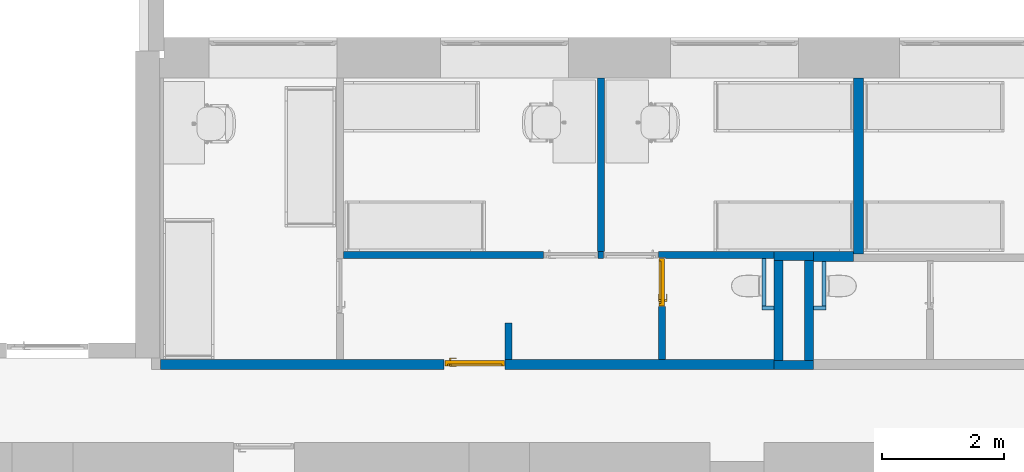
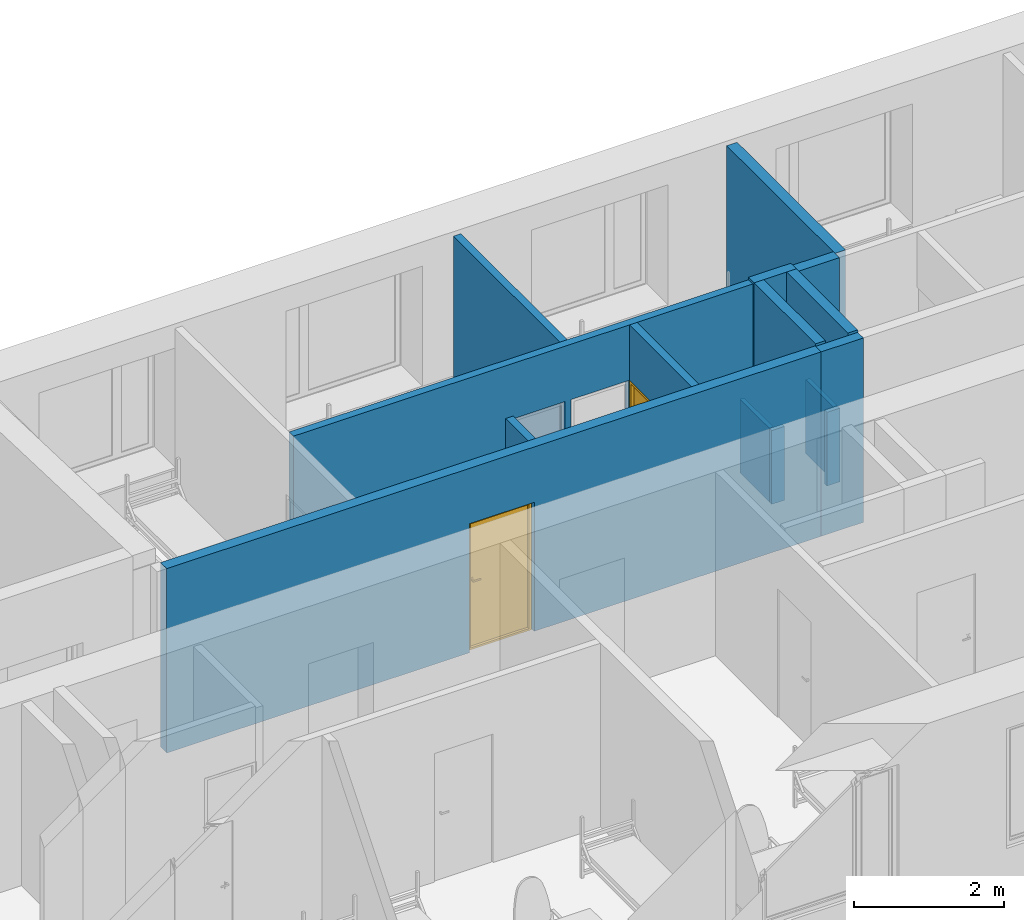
# One storey, part 9 of 46: 15 walls, 2 doors, 5 openings.
"""IFC2X3 building model written with IfcOpenShell, lengths in millimetres."""

from ifc_helpers import new_model, entity, si_unit, converted_unit, derived_unit, direction, frame, frame_2d, origin, place, context, subcontext, project, spatial, polyline, rectangle, extrude, clip, bounded_halfspace, faceted_brep, source, transform, mapped, material, material_list, layer, layer_set, layer_usage, type_object, type_shapes, element, fill, save


model = new_model("IFC2X3")

# Units and contexts
model_context = context("Model", 3, precision=0.01, world=origin(), true_north=direction((6.12303176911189e-17, 1.0)))
body_context = subcontext(model_context, "Body", "Model", "MODEL_VIEW")
ifc_project = project(units=[si_unit("LENGTHUNIT", "METRE", prefix="MILLI"), si_unit("AREAUNIT", "SQUARE_METRE"), si_unit("VOLUMEUNIT", "CUBIC_METRE"), converted_unit("PLANEANGLEUNIT", "DEGREE", entity("IfcRatioMeasure", 0.0174532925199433), si_unit("PLANEANGLEUNIT", "RADIAN"), dimensions=[0, 0, 0, 0, 0, 0, 0]), si_unit("MASSUNIT", "GRAM", prefix="KILO"), derived_unit("MASSDENSITYUNIT", [(si_unit("MASSUNIT", "GRAM", prefix="KILO"), 1), (si_unit("LENGTHUNIT", "METRE"), -3)]), si_unit("TIMEUNIT", "SECOND"), si_unit("FREQUENCYUNIT", "HERTZ"), si_unit("THERMODYNAMICTEMPERATUREUNIT", "DEGREE_CELSIUS"), derived_unit("THERMALTRANSMITTANCEUNIT", [(si_unit("MASSUNIT", "GRAM", prefix="KILO"), 1), (si_unit("THERMODYNAMICTEMPERATUREUNIT", "KELVIN"), -1), (si_unit("TIMEUNIT", "SECOND"), -3)]), derived_unit("VOLUMETRICFLOWRATEUNIT", [(si_unit("LENGTHUNIT", "METRE"), 3), (si_unit("TIMEUNIT", "SECOND"), -1)]), si_unit("ELECTRICCURRENTUNIT", "AMPERE"), si_unit("ELECTRICVOLTAGEUNIT", "VOLT"), si_unit("POWERUNIT", "WATT"), si_unit("FORCEUNIT", "NEWTON", prefix="KILO"), si_unit("ILLUMINANCEUNIT", "LUX"), si_unit("LUMINOUSFLUXUNIT", "LUMEN"), si_unit("LUMINOUSINTENSITYUNIT", "CANDELA"), derived_unit("USERDEFINED", [(si_unit("MASSUNIT", "GRAM", prefix="KILO"), -1), (si_unit("LENGTHUNIT", "METRE"), -2), (si_unit("TIMEUNIT", "SECOND"), 3), (si_unit("LUMINOUSFLUXUNIT", "LUMEN"), 1)]), derived_unit("LINEARVELOCITYUNIT", [(si_unit("LENGTHUNIT", "METRE"), 1), (si_unit("TIMEUNIT", "SECOND"), -1)]), si_unit("PRESSUREUNIT", "PASCAL"), derived_unit("USERDEFINED", [(si_unit("LENGTHUNIT", "METRE"), -2), (si_unit("MASSUNIT", "GRAM", prefix="KILO"), 1), (si_unit("TIMEUNIT", "SECOND"), -2)]), derived_unit("LINEARFORCEUNIT", [(si_unit("MASSUNIT", "GRAM", prefix="KILO"), 1), (si_unit("LENGTHUNIT", "METRE"), 1), (si_unit("TIMEUNIT", "SECOND"), -2), (si_unit("LENGTHUNIT", "METRE"), -1)]), derived_unit("PLANARFORCEUNIT", [(si_unit("MASSUNIT", "GRAM", prefix="KILO"), 1), (si_unit("LENGTHUNIT", "METRE"), 1), (si_unit("TIMEUNIT", "SECOND"), -2), (si_unit("LENGTHUNIT", "METRE"), -2)])], contexts=[model_context])

# Site, building, storey
site_placement = place(None, origin())
site = spatial("IfcSite", under=ifc_project, at=site_placement, Name="Default", CompositionType="ELEMENT")
building_placement = place(site_placement, origin())
building = spatial("IfcBuilding", under=site, at=building_placement, Name="SMA ARH", CompositionType="ELEMENT")
storey_placement = place(building_placement, frame((0.0, 0.0, 9910.0)))
storey = spatial("IfcBuildingStorey", under=building, at=storey_placement, Name="4 Korrus", CompositionType="ELEMENT", Elevation=9909.9999999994)

# Walls
ifc_material_1 = material(Name="EST. Müüritis. Väikeplokk. Kergkruusplokk")
ifc_layer_1 = layer(ifc_material_1, 150.0)
ifc_layer_set_1 = layer_set([ifc_layer_1], Name="Basic Wall:SS-02_ 150mm šahtide vahesein")
ifc_layer_usage_1 = layer_usage(ifc_layer_set_1, "AXIS2", "POSITIVE", -75.0)
wall_type_1 = type_object("IfcWallType", Name="Basic Wall:SS-02_ 150mm šahtide vahesein", PredefinedType="STANDARD", material=ifc_layer_set_1)
wall_1_placement = place(storey_placement, frame((22087.2884818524, 9582.0, 0.0)))
element("IfcWallStandardCase", 1, at=wall_1_placement, inside=storey, type_object=wall_type_1, material=ifc_layer_usage_1, Name="Basic Wall:SS-02_ 150mm šahtide vahesein", ObjectType="Basic Wall:SS-02_ 150mm šahtide vahesein", context=body_context, shape_type="SweptSolid", body=[
    extrude(rectangle(XDim=650.000000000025, YDim=150.000000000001, at=frame_2d((325.000000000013, 4.68958205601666e-13), x_axis=(-1.0, 0.0))), origin(), (0.0, 0.0, 1.0), 3041.0500000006),
])
ifc_layer_usage_2 = layer_usage(ifc_layer_set_1, "AXIS2", "POSITIVE", -75.0)
wall_2_placement = place(storey_placement, frame((22662.2884818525, 9507.0, 0.0), z_axis=(0.0, 0.0, 1.0), x_axis=(0.0, -1.0, 0.0)))
element("IfcWallStandardCase", 2, at=wall_2_placement, inside=storey, type_object=wall_type_1, material=ifc_layer_usage_2, Name="Basic Wall:SS-02_ 150mm šahtide vahesein", ObjectType="Basic Wall:SS-02_ 150mm šahtide vahesein", context=body_context, shape_type="SweptSolid", body=[
    extrude(rectangle(XDim=1636.99999061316, YDim=150.000000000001, at=frame_2d((818.499995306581, 3.69482222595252e-13), x_axis=(-1.0, 0.0))), origin(), (0.0, 0.0, 1.0), 3041.0500000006),
])
ifc_layer_usage_3 = layer_usage(ifc_layer_set_1, "AXIS2", "POSITIVE", -75.0)
wall_3_placement = place(storey_placement, frame((22737.2884818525, 7795.0, 0.0), z_axis=(0.0, 0.0, 1.0), x_axis=(-1.0, 0.0, 0.0)))
element("IfcWallStandardCase", 3, at=wall_3_placement, inside=storey, type_object=wall_type_1, material=ifc_layer_usage_3, Name="Basic Wall:SS-02_ 150mm šahtide vahesein", ObjectType="Basic Wall:SS-02_ 150mm šahtide vahesein", context=body_context, shape_type="Clipping", body=[
    clip(extrude(rectangle(XDim=650.000000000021, YDim=150.000000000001, at=frame_2d((325.000000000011, 4.68958205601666e-13), x_axis=(-1.0, 0.0))), origin(), (0.0, 0.0, 1.0), 3001.0500000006), bounded_halfspace(frame((0.0, -75.0, 3001.0500000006), z_axis=(0.0, 0.0, -1.0), x_axis=(0.0, -1.0, 0.0)), True, frame((0.0, -75.0, 3001.0500000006)), polyline([(0.0, 0.0), (650.0, 0.0), (650.0, 150.0), (0.0, 150.0), (0.0, 0.0)]))),
])
ifc_layer_usage_4 = layer_usage(ifc_layer_set_1, "AXIS2", "POSITIVE", -75.0)
wall_4_placement = place(storey_placement, frame((22162.2884818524, 7870.0, 0.0), z_axis=(0.0, 0.0, 1.0), x_axis=(0.0, 1.0, 0.0)))
element("IfcWallStandardCase", 4, at=wall_4_placement, inside=storey, type_object=wall_type_1, material=ifc_layer_usage_4, Name="Basic Wall:SS-02_ 150mm šahtide vahesein", ObjectType="Basic Wall:SS-02_ 150mm šahtide vahesein", context=body_context, shape_type="SweptSolid", body=[
    extrude(rectangle(XDim=1636.99999061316, YDim=150.000000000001, at=frame_2d((818.499995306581, 0.0), x_axis=(-1.0, 0.0))), origin(), (0.0, 0.0, 1.0), 3041.0500000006),
])

# Wall, opening, door
ifc_material_2 = material(Name="EST. Ehitusplaat. Kipsplaat")
ifc_layer_2 = layer(ifc_material_2, 12.5)
ifc_layer_3 = layer(ifc_material_2, 12.5)
ifc_material_3 = material(Name="EST. Soojustus. Mineraalvill. Default")
ifc_layer_4 = layer(ifc_material_3, 50.0)
ifc_layer_5 = layer(ifc_material_2, 12.5)
ifc_layer_6 = layer(ifc_material_3, 50.0)
ifc_layer_7 = layer(ifc_material_2, 12.5)
ifc_layer_8 = layer(ifc_material_2, 12.5)
ifc_layer_set_2 = layer_set([ifc_layer_2, ifc_layer_3, ifc_layer_4, ifc_layer_5, ifc_layer_6, ifc_layer_7, ifc_layer_8], Name="Basic Wall:SS-04_Kips, 50+50 mm metallkarkass 2")
ifc_layer_usage_5 = layer_usage(ifc_layer_set_2, "AXIS2", "NEGATIVE", 81.25)
wall_type_2 = type_object("IfcWallType", Name="Basic Wall:SS-04_Kips, 50+50 mm metallkarkass 2", PredefinedType="STANDARD", material=ifc_layer_set_2)
wall_5_placement = place(storey_placement, frame((12015.0, 7801.25000938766, 0.0)))
wall_5 = element("IfcWallStandardCase", 5, at=wall_5_placement, inside=storey, type_object=wall_type_2, material=ifc_layer_usage_5, Name="Basic Wall:SS-04_Kips, 50+50 mm metallkarkass 2", ObjectType="Basic Wall:SS-04_Kips, 50+50 mm metallkarkass 2", context=body_context, shape_type="Clipping", body=[
    clip(extrude(rectangle(XDim=10072.2884818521, YDim=162.5, at=frame_2d((5036.14424092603, -2.1316282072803e-14), x_axis=(-1.0, 0.0))), origin(), (0.0, 0.0, 1.0), 3001.0500000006), bounded_halfspace(frame((0.0, -81.2499999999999, 3001.0500000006), z_axis=(0.0, 0.0, -1.0), x_axis=(0.0, 1.0, 0.0)), True, frame((0.0, -81.2499999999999, 3001.0500000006)), polyline([(0.0, 0.0), (10072.2884818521, 0.0), (10072.2884818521, 150.0), (10072.2884818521, 162.5), (8289.0, 162.5), (8173.0, 162.5), (5773.0, 162.5), (5657.0, 162.5), (3000.50000000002, 162.5), (2884.50000000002, 162.5), (0.0, 162.5), (0.0, 0.0)]))),
])
opening_1_placement = place(wall_5_placement, frame((4657.0, -81.2500000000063, 0.0)))
opening_1 = element("IfcOpeningElement", 6, at=opening_1_placement, cuts=wall_5, Name="SMA_D01, 1-poolne:SU-P-04 - 1000x2100 EI-30:1", ObjectType="Opening", context=body_context, shape_type="SweptSolid", body=[
    extrude(rectangle(XDim=2099.99999999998, YDim=1000.0, at=frame_2d((1049.99999999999, 500.0), x_axis=(1.0, 0.0))), frame((0.0, 0.0, 0.0), z_axis=(0.0, 1.0, 0.0), x_axis=(0.0, 0.0, 1.0)), (0.0, 0.0, 1.0), 162.5),
])
ifc_material_4 = material(Name="EST. Metall. Alumiinium. Värvitud. RAL7023 (Concrete grey)")
ifc_material_5 = material(Name="<Unnamed>")
ifc_material_6 = material(Name="EST. Klaas. 3x. Default")
ifc_material_list_1 = material_list([ifc_material_5, ifc_material_6, ifc_material_5, ifc_material_4, ifc_material_5, ifc_material_4, ifc_material_4])
door_style_1 = type_object("IfcDoorStyle", Name="SMA_D01, 1-poolne:SU-P-04 - 1000x2100 EI-30", ConstructionType="NOTDEFINED", OperationType="SINGLE_SWING_RIGHT", ParameterTakesPrecedence=False, Sizeable=False, material=ifc_material_list_1)
shared_shape_1 = source(origin(), body_context, "Body", "Brep", [
    faceted_brep([(110.0, 52.5000000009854, 1112.5), (110.0, 90.5000000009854, 1112.5), (85.0, 90.5000000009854, 1112.5), (85.0, 47.5000000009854, 1112.5), (205.0, 47.5000000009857, 1112.5), (205.0, 52.5000000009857, 1112.5), (110.0, 52.5000000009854, 1087.5), (205.0, 52.5000000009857, 1087.5), (205.0, 47.5000000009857, 1087.5), (85.0, 47.5000000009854, 1087.5), (85.0, 90.5000000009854, 1087.5), (110.0, 90.5000000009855, 1087.5)], [[[0, 1, 2, 3, 4, 5]], [[6, 7, 8, 9, 10, 11]], [[1, 0, 6, 11]], [[2, 1, 11, 10]], [[3, 2, 10, 9]], [[4, 3, 9, 8]], [[5, 4, 8, 7]], [[0, 5, 7, 6]]]),
    faceted_brep([(122.499999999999, 90.5000000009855, 1137.5), (122.499999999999, 92.5000000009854, 1137.5), (72.4999999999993, 92.5000000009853, 1137.5), (72.4999999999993, 90.5000000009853, 1137.5), (122.499999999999, 90.5000000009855, 1017.5), (72.4999999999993, 90.5000000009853, 1017.5), (72.4999999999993, 92.5000000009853, 1017.5), (122.499999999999, 92.5000000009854, 1017.5)], [[[0, 1, 2, 3]], [[4, 5, 6, 7]], [[1, 0, 4, 7]], [[2, 1, 7, 6]], [[3, 2, 6, 5]], [[0, 3, 5, 4]]]),
    faceted_brep([(110.0, 182.500000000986, 1112.5), (205.0, 182.500000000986, 1112.5), (205.0, 187.500000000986, 1112.5), (85.0, 187.500000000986, 1112.5), (85.0, 144.500000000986, 1112.5), (110.0, 144.500000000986, 1112.5), (110.0, 182.500000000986, 1087.5), (110.0, 144.500000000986, 1087.5), (85.0, 144.500000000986, 1087.5), (85.0, 187.500000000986, 1087.5), (205.0, 187.500000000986, 1087.5), (205.0, 182.500000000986, 1087.5)], [[[0, 1, 2, 3, 4, 5]], [[6, 7, 8, 9, 10, 11]], [[5, 7, 6, 0]], [[4, 8, 7, 5]], [[3, 9, 8, 4]], [[2, 10, 9, 3]], [[1, 11, 10, 2]], [[0, 6, 11, 1]]]),
    faceted_brep([(122.499999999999, 144.500000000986, 1137.5), (72.4999999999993, 144.500000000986, 1137.5), (72.4999999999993, 142.500000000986, 1137.5), (122.499999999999, 142.500000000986, 1137.5), (122.499999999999, 144.500000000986, 1017.5), (122.499999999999, 142.500000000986, 1017.5), (72.4999999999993, 142.500000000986, 1017.5), (72.4999999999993, 144.500000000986, 1017.5)], [[[0, 1, 2, 3]], [[4, 5, 6, 7]], [[3, 5, 4, 0]], [[2, 6, 5, 3]], [[1, 7, 6, 2]], [[0, 4, 7, 1]]]),
    faceted_brep([(950.0, 52.5000000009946, 30.0), (950.0, 52.5000000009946, 0.0), (950.0, 92.5000000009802, 0.0), (950.0, 92.5000000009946, 20.0), (950.0, 92.5000000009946, 30.0), (50.0, 52.5000000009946, 30.0), (50.0, 92.5000000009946, 30.0), (50.0, 92.5000000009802, 20.0), (50.0, 92.5000000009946, 0.0), (50.0, 52.5000000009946, 0.0), (35.0, 92.5000000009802, 0.0), (35.0, 142.500000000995, 0.0), (965.0, 142.500000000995, 0.0), (965.0, 92.5000000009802, 0.0), (965.0, 142.500000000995, 20.0), (965.0, 92.5000000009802, 20.0), (35.0, 142.500000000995, 20.0), (35.0, 92.5000000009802, 20.0)], [[[0, 1, 2, 3, 4]], [[5, 6, 7, 8, 9]], [[1, 0, 5, 9]], [[2, 1, 9, 8, 10, 11, 12, 13]], [[6, 4, 3, 7]], [[0, 4, 6, 5]], [[14, 15, 13, 12]], [[16, 11, 10, 17]], [[15, 14, 16, 17, 7, 3]], [[13, 15, 3, 2]], [[14, 12, 11, 16]], [[17, 10, 8, 7]]]),
    faceted_brep([(990.0, 52.5000000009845, 0.0), (950.0, 52.5000000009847, 0.0), (950.0, 92.5000000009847, 0.0), (965.0, 92.5000000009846, 0.0), (965.0, 142.500000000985, 0.0), (990.0, 142.500000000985, 0.0), (990.0, 52.5000000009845, 2090.0), (10.0, 52.5000000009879, 2090.0), (10.0, 52.5000000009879, 0.0), (50.0, 52.5000000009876, 0.0), (50.0, 52.5000000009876, 2050.0), (950.0, 52.5000000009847, 2050.0), (950.0, 92.5000000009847, 2050.0), (50.0, 92.5000000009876, 2050.0), (50.0, 92.5000000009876, 0.0), (35.0, 92.5000000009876, 0.0), (35.0, 92.5000000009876, 2065.0), (965.0, 92.5000000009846, 2065.0), (965.0, 142.500000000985, 2065.0), (35.0, 142.500000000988, 2065.0), (35.0, 142.500000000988, 0.0), (10.0, 142.500000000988, 0.0), (10.0, 142.500000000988, 2090.0), (990.0, 142.500000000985, 2090.0)], [[[0, 1, 2, 3, 4, 5]], [[1, 0, 6, 7, 8, 9, 10, 11]], [[2, 1, 11, 12]], [[3, 2, 12, 13, 14, 15, 16, 17]], [[4, 3, 17, 18]], [[5, 4, 18, 19, 20, 21, 22, 23]], [[0, 5, 23, 6]], [[8, 7, 22, 21]], [[9, 8, 21, 20, 15, 14]], [[10, 9, 14, 13]], [[16, 15, 20, 19]], [[11, 10, 13, 12]], [[17, 16, 19, 18]], [[7, 6, 23, 22]]]),
    faceted_brep([(35.0, 92.5000000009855, 2065.0), (35.0, 92.5000000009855, 20.0), (965.0, 92.5000000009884, 20.0), (965.0, 92.5000000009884, 2065.0), (35.0, 142.500000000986, 2065.0), (965.0, 142.500000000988, 2065.0), (965.0, 142.500000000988, 20.0), (35.0, 142.500000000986, 20.0)], [[[0, 1, 2, 3]], [[4, 5, 6, 7]], [[1, 0, 4, 7]], [[2, 1, 7, 6]], [[3, 2, 6, 5]], [[0, 3, 5, 4]]]),
])
type_shapes(door_style_1, [shared_shape_1])
door_1_placement = place(opening_1_placement, frame((0.0, -9.38765060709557e-06, 0.0)))
door_1 = element("IfcDoor", 7, at=door_1_placement, inside=storey, type_object=door_style_1, material=ifc_material_4, Name="SMA_D01, 1-poolne:SU-P-04 - 1000x2100 EI-30", ObjectType="SMA_D01, 1-poolne:SU-P-04 - 1000x2100 EI-30", OverallHeight=2099.99999999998, OverallWidth=1000.0, context=body_context, shape_type="MappedRepresentation", body=[
    mapped(shared_shape_1, transform((0.0, 0.0, 0.0), scale=1.0)),
])
fill(opening_1, door_1)

# Walls
ifc_layer_usage_6 = layer_usage(ifc_layer_set_2, "AXIS2", "NEGATIVE", 81.25)
wall_6_placement = place(storey_placement, frame((23472.5000000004, 12500.0, 0.0), z_axis=(0.0, 0.0, 1.0), x_axis=(0.0, -1.0, 0.0)))
element("IfcWallStandardCase", 8, at=wall_6_placement, inside=storey, type_object=wall_type_2, material=ifc_layer_usage_6, Name="Basic Wall:SS-04_Kips, 50+50 mm metallkarkass 2", ObjectType="Basic Wall:SS-04_Kips, 50+50 mm metallkarkass 2", context=body_context, shape_type="SweptSolid", body=[
    extrude(rectangle(XDim=2889.4999999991, YDim=162.499999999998, at=frame_2d((1444.74999999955, -1.98951966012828e-13), x_axis=(-1.0, 0.0))), origin(), (0.0, 0.0, 1.0), 3001.0500000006),
])
ifc_layer_usage_7 = layer_usage(ifc_layer_set_2, "AXIS2", "POSITIVE", -81.25)
wall_7_placement = place(storey_placement, frame((23391.2500000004, 9575.75000000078, 0.0), z_axis=(0.0, 0.0, 1.0), x_axis=(-1.0, 0.0, 0.0)))
element("IfcWallStandardCase", 9, at=wall_7_placement, inside=storey, type_object=wall_type_2, material=ifc_layer_usage_7, Name="Basic Wall:SS-04_Kips, 50+50 mm metallkarkass 2", ObjectType="Basic Wall:SS-04_Kips, 50+50 mm metallkarkass 2", context=body_context, shape_type="Clipping", body=[
    clip(extrude(rectangle(XDim=653.961518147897, YDim=162.5, at=frame_2d((326.980759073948, 2.8421709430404e-14), x_axis=(-1.0, 0.0))), origin(), (0.0, 0.0, 1.0), 3001.0500000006), bounded_halfspace(frame((0.0, -81.2499999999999, 3001.0500000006), z_axis=(0.0, 0.0, -1.0), x_axis=(0.0, -1.0, 0.0)), True, frame((0.0, -81.2499999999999, 3001.0500000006)), polyline([(0.0, 0.0), (653.961518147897, 0.0), (653.961518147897, 162.5), (0.0, 162.5), (0.0, 46.5000000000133), (0.0, 0.0)]))),
])
ifc_layer_9 = layer(ifc_material_2, 12.5)
ifc_layer_10 = layer(ifc_material_2, 12.5)
ifc_layer_11 = layer(ifc_material_3, 66.0)
ifc_layer_12 = layer(ifc_material_2, 12.5)
ifc_layer_13 = layer(ifc_material_2, 12.5)
ifc_layer_set_3 = layer_set([ifc_layer_9, ifc_layer_10, ifc_layer_11, ifc_layer_12, ifc_layer_13], Name="Basic Wall:SS-05_Kips, 66mm metallkarkass")
ifc_layer_usage_8 = layer_usage(ifc_layer_set_3, "AXIS2", "NEGATIVE", 58.0)
wall_type_3 = type_object("IfcWallType", Name="Basic Wall:SS-05_Kips, 66mm metallkarkass", PredefinedType="STANDARD", material=ifc_layer_set_3)
wall_8_placement = place(storey_placement, frame((19243.5000000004, 12500.0, 0.0), z_axis=(0.0, 0.0, 1.0), x_axis=(0.0, -1.0, 0.0)))
element("IfcWallStandardCase", 10, at=wall_8_placement, inside=storey, type_object=wall_type_3, material=ifc_layer_usage_8, Name="Basic Wall:SS-05_Kips, 66mm metallkarkass", ObjectType="Basic Wall:SS-05_Kips, 66mm metallkarkass", context=body_context, shape_type="SweptSolid", body=[
    extrude(rectangle(XDim=2842.99999999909, YDim=116.0, at=frame_2d((1421.49999999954, -2.38031816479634e-13), x_axis=(-1.0, 0.0))), origin(), (0.0, 0.0, 1.0), 3001.0500000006),
])

# Wall, openings
ifc_layer_14 = layer(ifc_material_2, 12.5)
ifc_layer_15 = layer(ifc_material_2, 12.5)
ifc_material_7 = material(Name="EST. Õhkvahe. Roov. Kipsplaadi alusroov. Vertikaalne")
ifc_layer_16 = layer(ifc_material_7, 66.0)
ifc_layer_17 = layer(ifc_material_2, 12.5)
ifc_layer_18 = layer(ifc_material_2, 12.5)
ifc_layer_set_4 = layer_set([ifc_layer_14, ifc_layer_15, ifc_layer_16, ifc_layer_17, ifc_layer_18], Name="Basic Wall:SS-03_Kips, 66mm metallkarkass")
ifc_layer_usage_9 = layer_usage(ifc_layer_set_4, "AXIS2", "NEGATIVE", 58.0)
wall_type_4 = type_object("IfcWallType", Name="Basic Wall:SS-03_Kips, 66mm metallkarkass", PredefinedType="STANDARD", material=ifc_layer_set_4)
wall_9_placement = place(storey_placement, frame((15015.5000000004, 9599.0, 0.0)))
wall_9 = element("IfcWallStandardCase", 11, at=wall_9_placement, inside=storey, type_object=wall_type_4, material=ifc_layer_usage_9, Name="Basic Wall:SS-03_Kips, 66mm metallkarkass", ObjectType="Basic Wall:SS-03_Kips, 66mm metallkarkass", context=body_context, shape_type="SweptSolid", body=[
    extrude(rectangle(XDim=7071.78848185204, YDim=116.0, at=frame_2d((3535.89424092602, -6.75015598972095e-14), x_axis=(-1.0, 0.0))), origin(), (0.0, 0.0, 1.0), 3001.0500000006),
])
opening_2_placement = place(wall_9_placement, origin())
element("IfcOpeningElement", 12, at=opening_2_placement, cuts=wall_9, Name="Basic Wall:SS-03_Kips, 66mm metallkarkass", ObjectType="Opening", context=body_context, shape_type="SweptSolid", body=[
    extrude(rectangle(XDim=2099.99999999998, YDim=116.0, at=frame_2d((0.0, -1.02318153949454e-12), x_axis=(0.0, 1.0))), frame((5230.49999999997, -845.500000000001, 1050.0), z_axis=(0.0, 1.0, 0.0), x_axis=(-1.0, 0.0, 0.0)), (0.0, 0.0, 1.0), 800.0),
])
opening_3_placement = place(wall_9_placement, frame((4273.49999999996, -58.0, 0.0)))
element("IfcOpeningElement", 13, at=opening_3_placement, cuts=wall_9, Name="SMA_D01, 1-poolne:SU-P-05 - 900x2100 TUBA:1", ObjectType="Opening", context=body_context, shape_type="SweptSolid", body=[
    extrude(rectangle(XDim=2099.99999999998, YDim=900.0, at=frame_2d((1049.99999999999, 450.000000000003), x_axis=(1.0, 0.0))), frame((0.0, 0.0, 0.0), z_axis=(0.0, 1.0, 0.0), x_axis=(0.0, 0.0, 1.0)), (0.0, 0.0, 1.0), 116.0),
])
opening_4_placement = place(wall_9_placement, frame((3282.49999999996, -58.0, 0.0)))
element("IfcOpeningElement", 14, at=opening_4_placement, cuts=wall_9, Name="SMA_D01, 1-poolne:SU-P-05 - 900x2100 TUBA:1", ObjectType="Opening", context=body_context, shape_type="SweptSolid", body=[
    extrude(rectangle(XDim=2099.99999999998, YDim=900.0, at=frame_2d((1049.99999999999, 450.0), x_axis=(1.0, 0.0))), frame((0.0, 0.0, 0.0), z_axis=(0.0, 1.0, 0.0), x_axis=(0.0, 0.0, 1.0)), (0.0, 0.0, 1.0), 116.0),
])

# Wall, opening, door
ifc_layer_usage_10 = layer_usage(ifc_layer_set_4, "AXIS2", "NEGATIVE", 58.0)
wall_10_placement = place(storey_placement, frame((20246.0, 7882.50000938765, 0.0), z_axis=(0.0, 0.0, 1.0), x_axis=(0.0, 1.0, 0.0)))
wall_10 = element("IfcWallStandardCase", 15, at=wall_10_placement, inside=storey, type_object=wall_type_4, material=ifc_layer_usage_10, Name="Basic Wall:SS-03_Kips, 66mm metallkarkass", ObjectType="Basic Wall:SS-03_Kips, 66mm metallkarkass", context=body_context, shape_type="Clipping", body=[
    clip(extrude(rectangle(XDim=1658.49999061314, YDim=116.0, at=frame_2d((829.249995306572, 8.17124146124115e-14), x_axis=(-1.0, 0.0))), origin(), (0.0, 0.0, 1.0), 3001.0500000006), bounded_halfspace(frame((0.0, -58.0, 3001.0500000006), z_axis=(0.0, 0.0, -1.0), x_axis=(1.0, 0.0, 0.0)), True, frame((0.0, -58.0, 3001.0500000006)), polyline([(0.0, 0.0), (1658.49999061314, 0.0), (1658.49999061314, 116.0), (0.0, 116.0), (0.0, 0.0)]))),
])
opening_5_placement = place(wall_10_placement, frame((1670.99999061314, 58.0, 0.0)))
opening_5 = element("IfcOpeningElement", 16, at=opening_5_placement, cuts=wall_10, Name="SMA_D01, 1-poolne:SU-P-06 - 800x2100 DUŠŠ:1", ObjectType="Opening", context=body_context, shape_type="SweptSolid", body=[
    extrude(rectangle(XDim=2099.99999999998, YDim=800.0, at=frame_2d((1049.99999999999, 400.0), x_axis=(1.0, 0.0))), frame((0.0, 0.0, 0.0), z_axis=(0.0, -1.0, 0.0), x_axis=(0.0, 0.0, 1.0)), (0.0, 0.0, 1.0), 116.0),
])
ifc_material_list_2 = material_list([ifc_material_6, ifc_material_4, ifc_material_5, ifc_material_4, ifc_material_5, ifc_material_4, ifc_material_5])
door_style_2 = type_object("IfcDoorStyle", Name="SMA_D01, 1-poolne:SU-P-06 - 800x2100 DUŠŠ", ConstructionType="NOTDEFINED", OperationType="SINGLE_SWING_LEFT", ParameterTakesPrecedence=False, Sizeable=False, material=ifc_material_list_2)
shared_shape_2 = source(origin(), body_context, "Body", "Brep", [
    faceted_brep([(690.0, 6.0, 1112.5), (595.0, 6.0, 1112.5), (595.0, 1.0, 1112.5), (715.0, 1.0, 1112.5), (715.0, 44.0, 1112.5), (690.0, 44.0, 1112.5), (690.0, 6.0, 1087.5), (690.0, 44.0, 1087.5), (715.0, 44.0, 1087.5), (715.0, 1.0, 1087.5), (595.0, 1.0, 1087.5), (595.0, 6.0, 1087.5)], [[[0, 1, 2, 3, 4, 5]], [[6, 7, 8, 9, 10, 11]], [[5, 7, 6, 0]], [[4, 8, 7, 5]], [[3, 9, 8, 4]], [[2, 10, 9, 3]], [[1, 11, 10, 2]], [[0, 6, 11, 1]]]),
    faceted_brep([(677.500000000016, 44.0, 1137.5), (727.500000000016, 44.0, 1137.5), (727.500000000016, 46.0, 1137.5), (677.500000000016, 46.0, 1137.5), (677.500000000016, 44.0, 1017.5), (677.500000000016, 46.0, 1017.5), (727.500000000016, 46.0, 1017.5), (727.500000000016, 44.0, 1017.5)], [[[0, 1, 2, 3]], [[4, 5, 6, 7]], [[3, 5, 4, 0]], [[2, 6, 5, 3]], [[1, 7, 6, 2]], [[0, 4, 7, 1]]]),
    faceted_brep([(690.0, 136.0, 1112.5), (690.0, 98.0, 1112.5), (715.0, 98.0, 1112.5), (715.0, 141.0, 1112.5), (595.0, 141.0, 1112.5), (595.0, 136.0, 1112.5), (690.0, 136.0, 1087.5), (595.0, 136.0, 1087.5), (595.0, 141.0, 1087.5), (715.0, 141.0, 1087.5), (715.0, 98.0, 1087.5), (690.0, 98.0, 1087.5)], [[[0, 1, 2, 3, 4, 5]], [[6, 7, 8, 9, 10, 11]], [[1, 0, 6, 11]], [[2, 1, 11, 10]], [[3, 2, 10, 9]], [[4, 3, 9, 8]], [[5, 4, 8, 7]], [[0, 5, 7, 6]]]),
    faceted_brep([(677.500000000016, 98.0, 1137.5), (677.500000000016, 96.0, 1137.5), (727.500000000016, 96.0, 1137.5), (727.500000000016, 98.0, 1137.5), (677.500000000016, 98.0, 1017.5), (727.500000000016, 98.0, 1017.5), (727.500000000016, 96.0, 1017.5), (677.500000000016, 96.0, 1017.5)], [[[0, 1, 2, 3]], [[4, 5, 6, 7]], [[1, 0, 4, 7]], [[2, 1, 7, 6]], [[3, 2, 6, 5]], [[0, 3, 5, 4]]]),
    faceted_brep([(50.0, 6.0, 30.0), (50.0, 46.0, 30.0), (50.0, 46.0, 20.0), (50.0, 46.0, 0.0), (50.0, 6.0, 0.0), (750.0, 6.0, 30.0), (750.0, 6.0, 0.0), (750.0, 46.0, 0.0), (750.0, 46.0, 20.0), (750.0, 46.0, 30.0), (35.0, 46.0, 0.0), (35.0, 96.0, 0.0), (765.0, 96.0, 0.0), (765.0, 46.0, 0.0), (35.0, 96.0, 20.0), (35.0, 46.0, 20.0), (765.0, 96.0, 20.0), (765.0, 46.0, 20.0)], [[[0, 1, 2, 3, 4]], [[5, 6, 7, 8, 9]], [[4, 6, 5, 0]], [[3, 10, 11, 12, 13, 7, 6, 4]], [[9, 8, 2, 1]], [[0, 5, 9, 1]], [[14, 11, 10, 15]], [[16, 17, 13, 12]], [[15, 2, 8, 17, 16, 14]], [[10, 3, 2, 15]], [[14, 16, 12, 11]], [[17, 8, 7, 13]]]),
    faceted_brep([(10.0, 6.0, 0.0), (10.0, 96.0, 0.0), (35.0, 96.0, 0.0), (35.0, 46.0, 0.0), (50.0, 46.0, 0.0), (50.0, 6.0, 0.0), (50.0, 6.0, 2050.0), (750.0, 6.0, 2050.0), (750.0, 6.0, 0.0), (790.0, 6.0, 0.0), (790.0, 6.0, 2090.0), (10.0, 6.0, 2090.0), (50.0, 46.0, 2050.0), (35.0, 46.0, 2065.0), (765.0, 46.0, 2065.0), (765.0, 46.0, 0.0), (750.0, 46.0, 0.0), (750.0, 46.0, 2050.0), (35.0, 96.0, 2065.0), (10.0, 96.0, 2090.0), (790.0, 96.0, 2090.0), (790.0, 96.0, 0.0), (765.0, 96.0, 0.0), (765.0, 96.0, 2065.0)], [[[0, 1, 2, 3, 4, 5]], [[5, 6, 7, 8, 9, 10, 11, 0]], [[4, 12, 6, 5]], [[3, 13, 14, 15, 16, 17, 12, 4]], [[2, 18, 13, 3]], [[1, 19, 20, 21, 22, 23, 18, 2]], [[0, 11, 19, 1]], [[9, 21, 20, 10]], [[8, 16, 15, 22, 21, 9]], [[7, 17, 16, 8]], [[14, 23, 22, 15]], [[6, 12, 17, 7]], [[13, 18, 23, 14]], [[10, 20, 19, 11]]]),
    faceted_brep([(765.0, 46.0, 2065.0), (35.0, 46.0, 2065.0), (35.0, 46.0, 20.0), (765.0, 46.0, 20.0), (765.0, 96.0, 2065.0), (765.0, 96.0, 20.0), (35.0, 96.0, 20.0), (35.0, 96.0, 2065.0)], [[[0, 1, 2, 3]], [[4, 5, 6, 7]], [[3, 5, 4, 0]], [[2, 6, 5, 3]], [[1, 7, 6, 2]], [[0, 4, 7, 1]]]),
])
type_shapes(door_style_2, [shared_shape_2])
door_2_placement = place(opening_5_placement, frame((0.0, 0.0, 0.0), z_axis=(0.0, 0.0, 1.0), x_axis=(-1.0, 0.0, 0.0)))
door_2 = element("IfcDoor", 17, at=door_2_placement, inside=storey, type_object=door_style_2, material=ifc_material_4, Name="SMA_D01, 1-poolne:SU-P-06 - 800x2100 DUŠŠ", ObjectType="SMA_D01, 1-poolne:SU-P-06 - 800x2100 DUŠŠ", OverallHeight=2099.99999999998, OverallWidth=800.0, context=body_context, shape_type="MappedRepresentation", body=[
    mapped(shared_shape_2, transform((0.0, 0.0, 0.0), scale=1.0)),
])
fill(opening_5, door_2)

# Walls
ifc_layer_usage_11 = layer_usage(ifc_layer_set_4, "AXIS2", "NEGATIVE", 58.0)
wall_11_placement = place(storey_placement, frame((17730.0, 8482.50000000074, 0.0), z_axis=(0.0, 0.0, 1.0), x_axis=(0.0, -1.0, 0.0)))
element("IfcWallStandardCase", 18, at=wall_11_placement, inside=storey, type_object=wall_type_4, material=ifc_layer_usage_11, Name="Basic Wall:SS-03_Kips, 66mm metallkarkass", ObjectType="Basic Wall:SS-03_Kips, 66mm metallkarkass", context=body_context, shape_type="Clipping", body=[
    clip(extrude(rectangle(XDim=599.999990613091, YDim=116.0, at=frame_2d((299.999995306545, 0.0), x_axis=(-1.0, 0.0))), origin(), (0.0, 0.0, 1.0), 3001.0500000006), bounded_halfspace(frame((0.0, -58.0, 3001.0500000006), z_axis=(0.0, 0.0, -1.0), x_axis=(-1.0, 0.0, 0.0)), True, frame((0.0, -58.0, 3001.0500000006)), polyline([(0.0, 0.0), (599.999990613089, 0.0), (599.999990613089, 116.0), (0.0, 116.0), (0.0, 0.0)]))),
])
ifc_material_8 = material(Name="EST. Põrand. Plaatkate")
ifc_layer_19 = layer(ifc_material_8, 10.0)
ifc_layer_20 = layer(ifc_material_2, 12.5)
ifc_layer_21 = layer(ifc_material_7, 42.0)
ifc_layer_set_5 = layer_set([ifc_layer_19, ifc_layer_20, ifc_layer_21], Name="Basic Wall:SS-04 - loputuskast")
ifc_layer_usage_12 = layer_usage(ifc_layer_set_5, "AXIS2", "POSITIVE", -32.25)
wall_type_5 = type_object("IfcWallType", Name="Basic Wall:SS-04 - loputuskast", PredefinedType="STANDARD", material=ifc_layer_set_5)
wall_12_placement = place(storey_placement, frame((21919.5384818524, 9541.0, 0.0), z_axis=(0.0, 0.0, 1.0), x_axis=(0.0, -1.0, 0.0)))
element("IfcWallStandardCase", 19, at=wall_12_placement, inside=storey, type_object=wall_type_5, material=ifc_layer_usage_12, Name="Basic Wall:SS-04 - loputuskast", ObjectType="Basic Wall:SS-04 - loputuskast", context=body_context, shape_type="SweptSolid", body=[
    extrude(rectangle(XDim=784.0, YDim=64.5000000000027, at=frame_2d((392.0, -1.23634436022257e-12), x_axis=(-1.0, 0.0))), origin(), (0.0, 0.0, 1.0), 1200.0),
])
ifc_layer_usage_13 = layer_usage(ifc_layer_set_5, "AXIS2", "POSITIVE", -32.25)
wall_13_placement = place(storey_placement, frame((21887.2884818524, 8724.75000000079, 0.0)))
element("IfcWallStandardCase", 20, at=wall_13_placement, inside=storey, type_object=wall_type_5, material=ifc_layer_usage_13, Name="Basic Wall:SS-04 - loputuskast", ObjectType="Basic Wall:SS-04 - loputuskast", context=body_context, shape_type="SweptSolid", body=[
    extrude(rectangle(XDim=200.000000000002, YDim=64.5000000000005, at=frame_2d((100.000000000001, -2.94875235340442e-13), x_axis=(-1.0, 0.0))), origin(), (0.0, 0.0, 1.0), 1200.0),
])
ifc_layer_usage_14 = layer_usage(ifc_layer_set_5, "AXIS2", "NEGATIVE", 32.25)
wall_14_placement = place(storey_placement, frame((22905.0384818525, 9494.50000000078, 0.0), z_axis=(0.0, 0.0, 1.0), x_axis=(0.0, -1.0, 0.0)))
element("IfcWallStandardCase", 21, at=wall_14_placement, inside=storey, type_object=wall_type_5, material=ifc_layer_usage_14, Name="Basic Wall:SS-04 - loputuskast", ObjectType="Basic Wall:SS-04 - loputuskast", context=body_context, shape_type="SweptSolid", body=[
    extrude(rectangle(XDim=737.499999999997, YDim=64.5000000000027, at=frame_2d((368.749999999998, -7.42517158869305e-13), x_axis=(-1.0, 0.0))), origin(), (0.0, 0.0, 1.0), 1200.0),
])
ifc_layer_usage_15 = layer_usage(ifc_layer_set_5, "AXIS2", "NEGATIVE", 32.25)
wall_15_placement = place(storey_placement, frame((22937.2884818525, 8724.75000000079, 0.0), z_axis=(0.0, 0.0, 1.0), x_axis=(-1.0, 0.0, 0.0)))
element("IfcWallStandardCase", 22, at=wall_15_placement, inside=storey, type_object=wall_type_5, material=ifc_layer_usage_15, Name="Basic Wall:SS-04 - loputuskast", ObjectType="Basic Wall:SS-04 - loputuskast", context=body_context, shape_type="SweptSolid", body=[
    extrude(rectangle(XDim=200.000000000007, YDim=64.5000000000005, at=frame_2d((100.000000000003, 2.94875235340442e-13), x_axis=(-1.0, 0.0))), origin(), (0.0, 0.0, 1.0), 1200.0),
])

save(model, "model.ifc")
